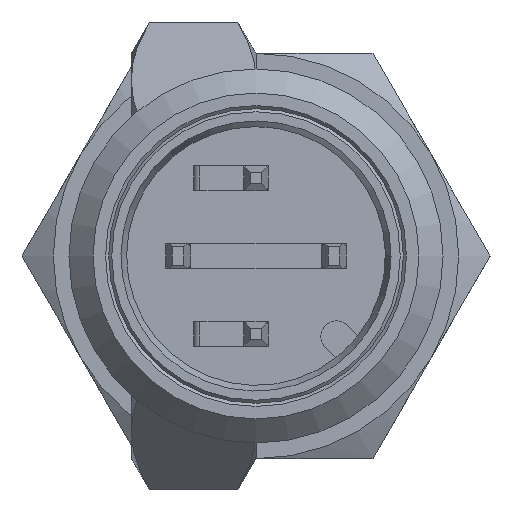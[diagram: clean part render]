
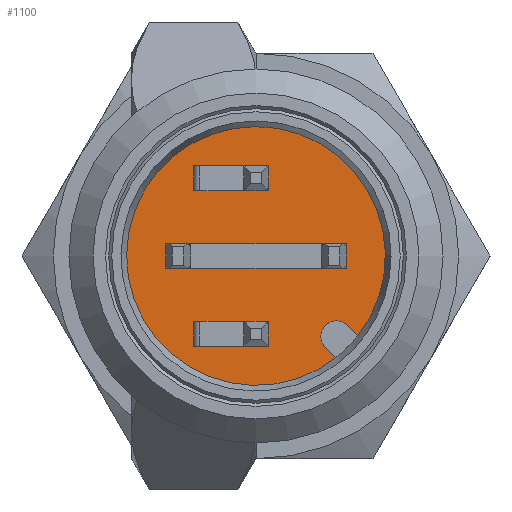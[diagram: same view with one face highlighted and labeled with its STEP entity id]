
A CAD part, left-side view. The second image highlights one B-rep face of the part: STEP entity #1100.
In plain terms, the highlighted planar face has unit normal (-1, 0, 0).
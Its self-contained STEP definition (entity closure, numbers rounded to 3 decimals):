
#1100 = ADVANCED_FACE( '', ( #2043, #2044, #2045, #2046 ), #2047, .F. );
#2043 = FACE_BOUND( '', #2445, .T. );
#2044 = FACE_OUTER_BOUND( '', #2446, .T. );
#2045 = FACE_BOUND( '', #2447, .T. );
#2046 = FACE_BOUND( '', #2448, .T. );
#2047 = PLANE( '', #2449 );
#2069 = EDGE_CURVE( '', #2486, #2489, #2490, .T. );
#2144 = EDGE_CURVE( '', #2614, #2616, #2617, .T. );
#2182 = EDGE_CURVE( '', #2674, #2489, #2675, .T. );
#2195 = EDGE_CURVE( '', #2695, #2616, #2696, .T. );
#2205 = EDGE_CURVE( '', #2709, #2695, #2710, .T. );
#2210 = EDGE_CURVE( '', #2614, #2709, #2716, .T. );
#2268 = EDGE_CURVE( '', #2801, #2798, #2802, .T. );
#2319 = EDGE_CURVE( '', #2876, #2877, #2878, .T. );
#2339 = EDGE_CURVE( '', #2902, #2903, #2904, .T. );
#2344 = EDGE_CURVE( '', #2801, #2911, #2912, .T. );
#2355 = EDGE_CURVE( '', #2903, #2877, #2926, .T. );
#2371 = EDGE_CURVE( '', #2943, #2674, #2944, .T. );
#2380 = EDGE_CURVE( '', #2911, #2954, #2955, .T. );
#2383 = EDGE_CURVE( '', #2798, #2954, #2958, .T. );
#2386 = EDGE_CURVE( '', #2902, #2876, #2961, .T. );
#2398 = EDGE_CURVE( '', #2943, #2486, #2973, .T. );
#2445 = EDGE_LOOP( '', ( #3126, #3127, #3128, #3129 ) );
#2446 = EDGE_LOOP( '', ( #3130, #3131, #3132, #3133 ) );
#2447 = EDGE_LOOP( '', ( #3134, #3135, #3136, #3137 ) );
#2448 = EDGE_LOOP( '', ( #3138, #3139, #3140, #3141 ) );
#2449 = AXIS2_PLACEMENT_3D( '', #3142, #3143, #3144 );
#2486 = VERTEX_POINT( '', #3195 );
#2489 = VERTEX_POINT( '', #3199 );
#2490 = LINE( '', #3200, #3201 );
#2614 = VERTEX_POINT( '', #3365 );
#2616 = VERTEX_POINT( '', #3368 );
#2617 = CIRCLE( '', #3369, 4.15 );
#2674 = VERTEX_POINT( '', #3438 );
#2675 = LINE( '', #3439, #3440 );
#2695 = VERTEX_POINT( '', #3466 );
#2696 = LINE( '', #3467, #3468 );
#2709 = VERTEX_POINT( '', #3486 );
#2710 = CIRCLE( '', #3487, 0.5 );
#2716 = LINE( '', #3494, #3495 );
#2798 = VERTEX_POINT( '', #3602 );
#2801 = VERTEX_POINT( '', #3606 );
#2802 = LINE( '', #3607, #3608 );
#2876 = VERTEX_POINT( '', #3704 );
#2877 = VERTEX_POINT( '', #3705 );
#2878 = LINE( '', #3706, #3707 );
#2902 = VERTEX_POINT( '', #3741 );
#2903 = VERTEX_POINT( '', #3742 );
#2904 = LINE( '', #3743, #3744 );
#2911 = VERTEX_POINT( '', #3754 );
#2912 = LINE( '', #3755, #3756 );
#2926 = LINE( '', #3776, #3777 );
#2943 = VERTEX_POINT( '', #3801 );
#2944 = LINE( '', #3802, #3803 );
#2954 = VERTEX_POINT( '', #3816 );
#2955 = LINE( '', #3817, #3818 );
#2958 = LINE( '', #3822, #3823 );
#2961 = LINE( '', #3826, #3827 );
#2973 = LINE( '', #3841, #3842 );
#3126 = ORIENTED_EDGE( '', *, *, #2380, .F. );
#3127 = ORIENTED_EDGE( '', *, *, #2344, .F. );
#3128 = ORIENTED_EDGE( '', *, *, #2268, .T. );
#3129 = ORIENTED_EDGE( '', *, *, #2383, .T. );
#3130 = ORIENTED_EDGE( '', *, *, #2195, .T. );
#3131 = ORIENTED_EDGE( '', *, *, #2144, .F. );
#3132 = ORIENTED_EDGE( '', *, *, #2210, .T. );
#3133 = ORIENTED_EDGE( '', *, *, #2205, .T. );
#3134 = ORIENTED_EDGE( '', *, *, #2339, .F. );
#3135 = ORIENTED_EDGE( '', *, *, #2386, .T. );
#3136 = ORIENTED_EDGE( '', *, *, #2319, .T. );
#3137 = ORIENTED_EDGE( '', *, *, #2355, .F. );
#3138 = ORIENTED_EDGE( '', *, *, #2398, .F. );
#3139 = ORIENTED_EDGE( '', *, *, #2371, .T. );
#3140 = ORIENTED_EDGE( '', *, *, #2182, .T. );
#3141 = ORIENTED_EDGE( '', *, *, #2069, .F. );
#3142 = CARTESIAN_POINT( '', ( -18.72, 0., 0. ) );
#3143 = DIRECTION( '', ( 1., 0., 0. ) );
#3144 = DIRECTION( '', ( 0., -1., 0. ) );
#3195 = CARTESIAN_POINT( '', ( -18.72, -0.4, -2.1 ) );
#3199 = CARTESIAN_POINT( '', ( -18.72, 2., -2.1 ) );
#3200 = CARTESIAN_POINT( '', ( -18.72, -0.4, -2.1 ) );
#3201 = VECTOR( '', #3909, 1000. );
#3365 = CARTESIAN_POINT( '', ( -18.72, -2.56, -3.267 ) );
#3368 = CARTESIAN_POINT( '', ( -18.72, -3.267, -2.56 ) );
#3369 = AXIS2_PLACEMENT_3D( '', #4005, #4006, #4007 );
#3438 = CARTESIAN_POINT( '', ( -18.72, 2., -2.9 ) );
#3439 = CARTESIAN_POINT( '', ( -18.72, 2., -2.9 ) );
#3440 = VECTOR( '', #4065, 1000. );
#3466 = CARTESIAN_POINT( '', ( -18.72, -2.934, -2.227 ) );
#3467 = CARTESIAN_POINT( '', ( -18.72, -2.934, -2.227 ) );
#3468 = VECTOR( '', #4081, 1000. );
#3486 = CARTESIAN_POINT( '', ( -18.72, -2.227, -2.934 ) );
#3487 = AXIS2_PLACEMENT_3D( '', #4090, #4091, #4092 );
#3494 = CARTESIAN_POINT( '', ( -18.72, -2.227, -2.934 ) );
#3495 = VECTOR( '', #4097, 1000. );
#3602 = CARTESIAN_POINT( '', ( -18.72, -2.9, 0.4 ) );
#3606 = CARTESIAN_POINT( '', ( -18.72, 2.9, 0.4 ) );
#3607 = CARTESIAN_POINT( '', ( -18.72, 2.9, 0.4 ) );
#3608 = VECTOR( '', #4160, 1000. );
#3704 = CARTESIAN_POINT( '', ( -18.72, -0.4, 2.9 ) );
#3705 = CARTESIAN_POINT( '', ( -18.72, -0.4, 2.1 ) );
#3706 = CARTESIAN_POINT( '', ( -18.72, -0.4, 2.9 ) );
#3707 = VECTOR( '', #4222, 1000. );
#3741 = CARTESIAN_POINT( '', ( -18.72, 2., 2.9 ) );
#3742 = CARTESIAN_POINT( '', ( -18.72, 2., 2.1 ) );
#3743 = CARTESIAN_POINT( '', ( -18.72, 2., 2.9 ) );
#3744 = VECTOR( '', #4239, 1000. );
#3754 = CARTESIAN_POINT( '', ( -18.72, 2.9, -0.4 ) );
#3755 = CARTESIAN_POINT( '', ( -18.72, 2.9, 0.4 ) );
#3756 = VECTOR( '', #4243, 1000. );
#3776 = CARTESIAN_POINT( '', ( -18.72, 2., 2.1 ) );
#3777 = VECTOR( '', #4253, 1000. );
#3801 = CARTESIAN_POINT( '', ( -18.72, -0.4, -2.9 ) );
#3802 = CARTESIAN_POINT( '', ( -18.72, -0.4, -2.9 ) );
#3803 = VECTOR( '', #4267, 1000. );
#3816 = CARTESIAN_POINT( '', ( -18.72, -2.9, -0.4 ) );
#3817 = CARTESIAN_POINT( '', ( -18.72, 2.9, -0.4 ) );
#3818 = VECTOR( '', #4274, 1000. );
#3822 = CARTESIAN_POINT( '', ( -18.72, -2.9, 0.4 ) );
#3823 = VECTOR( '', #4276, 1000. );
#3826 = CARTESIAN_POINT( '', ( -18.72, 2., 2.9 ) );
#3827 = VECTOR( '', #4277, 1000. );
#3841 = CARTESIAN_POINT( '', ( -18.72, -0.4, -2.9 ) );
#3842 = VECTOR( '', #4283, 1000. );
#3909 = DIRECTION( '', ( 0., 1., 0. ) );
#4005 = CARTESIAN_POINT( '', ( -18.72, 0., 0. ) );
#4006 = DIRECTION( '', ( 1., 0., 0. ) );
#4007 = DIRECTION( '', ( 0., -1., 0. ) );
#4065 = DIRECTION( '', ( 0., 0., 1. ) );
#4081 = DIRECTION( '', ( 0., -0.707, -0.707 ) );
#4090 = CARTESIAN_POINT( '', ( -18.72, -2.581, -2.581 ) );
#4091 = DIRECTION( '', ( 1., 0., 0. ) );
#4092 = DIRECTION( '', ( 0., 0., -1. ) );
#4097 = DIRECTION( '', ( 0., 0.707, 0.707 ) );
#4160 = DIRECTION( '', ( 0., -1., 0. ) );
#4222 = DIRECTION( '', ( 0., 0., -1. ) );
#4239 = DIRECTION( '', ( 0., 0., -1. ) );
#4243 = DIRECTION( '', ( 0., 0., -1. ) );
#4253 = DIRECTION( '', ( 0., -1., 0. ) );
#4267 = DIRECTION( '', ( 0., 1., 0. ) );
#4274 = DIRECTION( '', ( 0., -1., 0. ) );
#4276 = DIRECTION( '', ( 0., 0., -1. ) );
#4277 = DIRECTION( '', ( 0., -1., 0. ) );
#4283 = DIRECTION( '', ( 0., 0., 1. ) );
